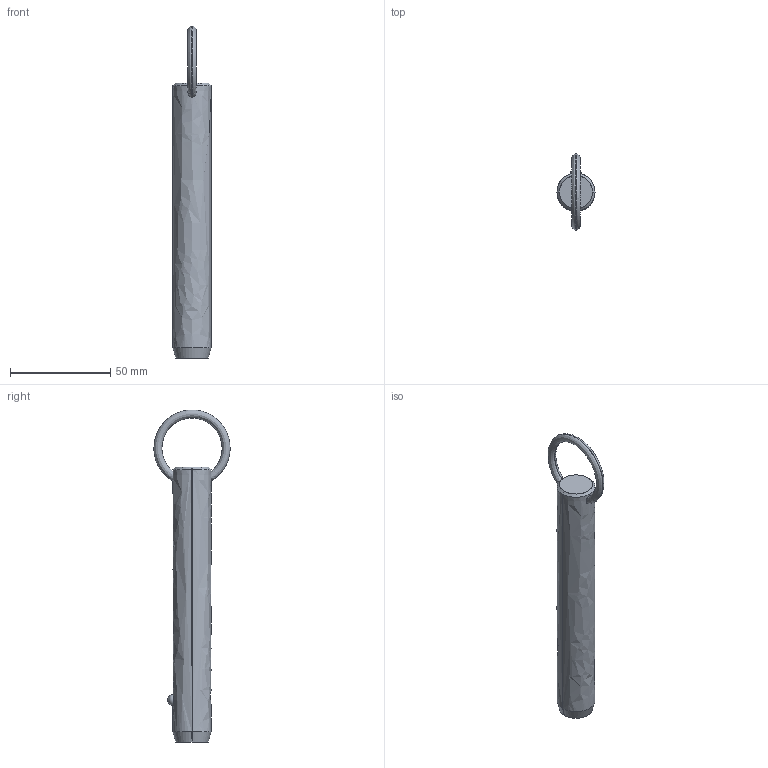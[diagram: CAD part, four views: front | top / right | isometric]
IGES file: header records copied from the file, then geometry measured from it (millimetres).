
Start section: SolidWorks IGES file using analytic representation for surfaces
Global section: file name: C:\Users\liam_\OneDrive\Documents\WORK\Work for WixRoyd\Job Files\J-00019 - Matt Davis CAD Checking\04. CAD Drawings\automotion20190605\P1250.2_v2\P1250.2_v2_20190729_IGES\P1250.075-410.igs; native system: SolidWorks 2017; preprocessor: SolidWorks 2017; author: liam_; date: 190729.235411; units: millimetre
Bounding box: 19 x 38.07 x 165.88 mm (x, y, z)
Surface area: 9728.3 mm2 (no closed solid volume)
Topology: 0 solids, 0 shells, 12 faces, 294 edges, 292 vertices
Faces by surface type: revolution 8, bspline 4
